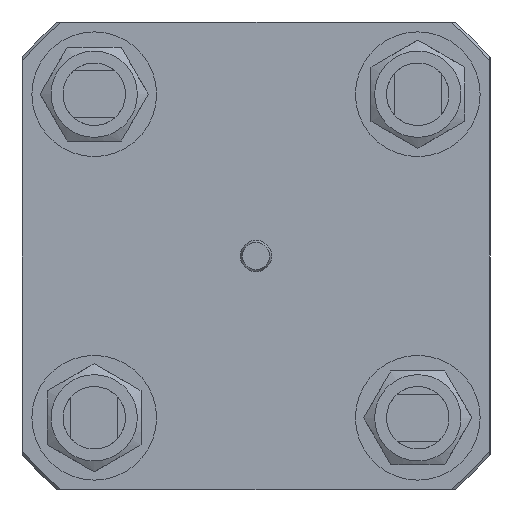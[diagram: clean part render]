
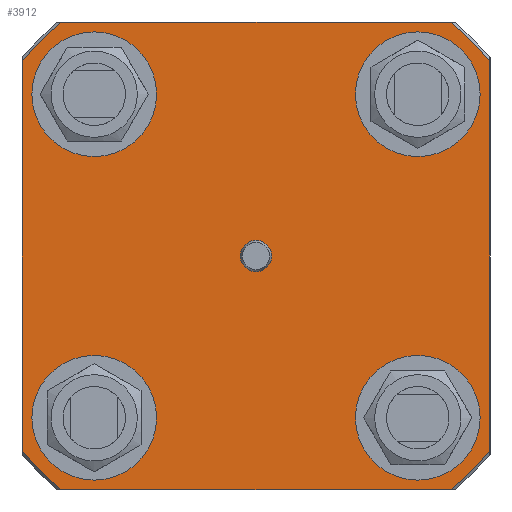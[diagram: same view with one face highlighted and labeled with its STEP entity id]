
A CAD part, left-side view. The second image highlights one B-rep face of the part: STEP entity #3912.
In plain terms, the highlighted planar face has unit normal (-1, 0, 0).
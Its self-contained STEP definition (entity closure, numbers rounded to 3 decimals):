
#50=FACE_BOUND('',#1209,.T.);
#51=FACE_BOUND('',#1210,.T.);
#52=FACE_BOUND('',#1211,.T.);
#53=FACE_BOUND('',#1212,.T.);
#54=FACE_BOUND('',#1213,.T.);
#485=LINE('',#6645,#717);
#486=LINE('',#6649,#718);
#487=LINE('',#6653,#719);
#488=LINE('',#6657,#720);
#717=VECTOR('',#5267,10.);
#718=VECTOR('',#5270,10.);
#719=VECTOR('',#5273,10.);
#720=VECTOR('',#5276,10.);
#942=FACE_OUTER_BOUND('',#1208,.T.);
#1208=EDGE_LOOP('',(#3260,#3261,#3262,#3263,#3264,#3265,#3266,#3267));
#1209=EDGE_LOOP('',(#3268));
#1210=EDGE_LOOP('',(#3269));
#1211=EDGE_LOOP('',(#3270));
#1212=EDGE_LOOP('',(#3271));
#1213=EDGE_LOOP('',(#3272));
#1441=CIRCLE('',#4248,3.);
#1452=CIRCLE('',#4290,12.);
#1454=CIRCLE('',#4294,12.);
#1456=CIRCLE('',#4298,12.);
#1460=CIRCLE('',#4313,12.);
#1469=CIRCLE('',#4325,58.5);
#1470=CIRCLE('',#4326,58.5);
#1471=CIRCLE('',#4327,58.5);
#1472=CIRCLE('',#4328,58.5);
#1727=VERTEX_POINT('',#6269);
#1774=VERTEX_POINT('',#6492);
#1776=VERTEX_POINT('',#6499);
#1778=VERTEX_POINT('',#6506);
#1794=VERTEX_POINT('',#6582);
#1809=VERTEX_POINT('',#6643);
#1810=VERTEX_POINT('',#6644);
#1811=VERTEX_POINT('',#6646);
#1812=VERTEX_POINT('',#6648);
#1813=VERTEX_POINT('',#6650);
#1814=VERTEX_POINT('',#6652);
#1815=VERTEX_POINT('',#6654);
#1816=VERTEX_POINT('',#6656);
#2195=EDGE_CURVE('',#1727,#1727,#1441,.T.);
#2268=EDGE_CURVE('',#1774,#1774,#1452,.T.);
#2271=EDGE_CURVE('',#1776,#1776,#1454,.T.);
#2274=EDGE_CURVE('',#1778,#1778,#1456,.T.);
#2299=EDGE_CURVE('',#1794,#1794,#1460,.T.);
#2316=EDGE_CURVE('',#1809,#1810,#485,.T.);
#2317=EDGE_CURVE('',#1810,#1811,#1469,.T.);
#2318=EDGE_CURVE('',#1811,#1812,#486,.T.);
#2319=EDGE_CURVE('',#1812,#1813,#1470,.T.);
#2320=EDGE_CURVE('',#1813,#1814,#487,.T.);
#2321=EDGE_CURVE('',#1814,#1815,#1471,.T.);
#2322=EDGE_CURVE('',#1815,#1816,#488,.T.);
#2323=EDGE_CURVE('',#1816,#1809,#1472,.T.);
#3260=ORIENTED_EDGE('',*,*,#2316,.T.);
#3261=ORIENTED_EDGE('',*,*,#2317,.T.);
#3262=ORIENTED_EDGE('',*,*,#2318,.T.);
#3263=ORIENTED_EDGE('',*,*,#2319,.T.);
#3264=ORIENTED_EDGE('',*,*,#2320,.T.);
#3265=ORIENTED_EDGE('',*,*,#2321,.T.);
#3266=ORIENTED_EDGE('',*,*,#2322,.T.);
#3267=ORIENTED_EDGE('',*,*,#2323,.T.);
#3268=ORIENTED_EDGE('',*,*,#2195,.T.);
#3269=ORIENTED_EDGE('',*,*,#2268,.T.);
#3270=ORIENTED_EDGE('',*,*,#2271,.T.);
#3271=ORIENTED_EDGE('',*,*,#2274,.T.);
#3272=ORIENTED_EDGE('',*,*,#2299,.T.);
#3746=PLANE('',#4324);
#3912=ADVANCED_FACE('',(#942,#50,#51,#52,#53,#54),#3746,.T.);
#4248=AXIS2_PLACEMENT_3D('',#6270,#5070,#5071);
#4290=AXIS2_PLACEMENT_3D('',#6493,#5180,#5181);
#4294=AXIS2_PLACEMENT_3D('',#6500,#5189,#5190);
#4298=AXIS2_PLACEMENT_3D('',#6507,#5198,#5199);
#4313=AXIS2_PLACEMENT_3D('',#6583,#5237,#5238);
#4324=AXIS2_PLACEMENT_3D('',#6642,#5265,#5266);
#4325=AXIS2_PLACEMENT_3D('',#6647,#5268,#5269);
#4326=AXIS2_PLACEMENT_3D('',#6651,#5271,#5272);
#4327=AXIS2_PLACEMENT_3D('',#6655,#5274,#5275);
#4328=AXIS2_PLACEMENT_3D('',#6658,#5277,#5278);
#5070=DIRECTION('center_axis',(1.,0.,0.));
#5071=DIRECTION('ref_axis',(0.,1.,0.));
#5180=DIRECTION('center_axis',(1.,0.,0.));
#5181=DIRECTION('ref_axis',(0.,-1.,0.));
#5189=DIRECTION('center_axis',(1.,0.,0.));
#5190=DIRECTION('ref_axis',(0.,0.,-1.));
#5198=DIRECTION('center_axis',(1.,0.,0.));
#5199=DIRECTION('ref_axis',(0.,1.,0.));
#5237=DIRECTION('center_axis',(1.,0.,0.));
#5238=DIRECTION('ref_axis',(0.,0.,
1.));
#5265=DIRECTION('center_axis',(-1.,0.,0.));
#5266=DIRECTION('ref_axis',(0.,0.,-1.));
#5267=DIRECTION('',(0.,-1.,0.));
#5268=DIRECTION('center_axis',(-1.,0.,0.));
#5269=DIRECTION('ref_axis',(0.,0.,-1.));
#5270=DIRECTION('',(0.,0.,1.));
#5271=DIRECTION('center_axis',(-1.,0.,0.));
#5272=DIRECTION('ref_axis',(0.,0.,-1.));
#5273=DIRECTION('',(0.,1.,0.));
#5274=DIRECTION('center_axis',(-1.,0.,0.));
#5275=DIRECTION('ref_axis',(0.,0.,-1.));
#5276=DIRECTION('',(0.,0.,-1.));
#5277=DIRECTION('center_axis',(-1.,0.,0.));
#5278=DIRECTION('ref_axis',(0.,0.,-1.));
#6269=CARTESIAN_POINT('',(-645.749,-3.,0.));
#6270=CARTESIAN_POINT('Origin',(-645.749,0.,
0.));
#6492=CARTESIAN_POINT('',(-645.749,-19.113,31.113));
#6493=CARTESIAN_POINT('Origin',(-645.749,-31.113,31.113));
#6499=CARTESIAN_POINT('',(-645.749,-31.113,-19.113));
#6500=CARTESIAN_POINT('Origin',(-645.749,-31.113,-31.113));
#6506=CARTESIAN_POINT('',(-645.749,19.113,-31.113));
#6507=CARTESIAN_POINT('Origin',(-645.749,31.113,-31.113));
#6582=CARTESIAN_POINT('',(-645.749,31.113,19.113));
#6583=CARTESIAN_POINT('Origin',(-645.749,31.113,31.113));
#6642=CARTESIAN_POINT('Origin',(-645.749,-3.1,0.));
#6643=CARTESIAN_POINT('',(-645.749,37.38,-45.));
#6644=CARTESIAN_POINT('',(-645.749,-37.38,-45.));
#6645=CARTESIAN_POINT('',(-645.749,20.95,-45.));
#6646=CARTESIAN_POINT('',(-645.749,-45.,-37.38));
#6647=CARTESIAN_POINT('Origin',(-645.749,0.,
0.));
#6648=CARTESIAN_POINT('',(-645.749,-45.,37.38));
#6649=CARTESIAN_POINT('',(-645.749,-45.,-22.5));
#6650=CARTESIAN_POINT('',(-645.749,-37.38,45.));
#6651=CARTESIAN_POINT('Origin',(-645.749,0.,
0.));
#6652=CARTESIAN_POINT('',(-645.749,37.38,45.));
#6653=CARTESIAN_POINT('',(-645.749,-24.05,45.));
#6654=CARTESIAN_POINT('',(-645.749,45.,37.38));
#6655=CARTESIAN_POINT('Origin',(-645.749,0.,
0.));
#6656=CARTESIAN_POINT('',(-645.749,45.,-37.38));
#6657=CARTESIAN_POINT('',(-645.749,45.,22.5));
#6658=CARTESIAN_POINT('Origin',(-645.749,0.,
0.));
